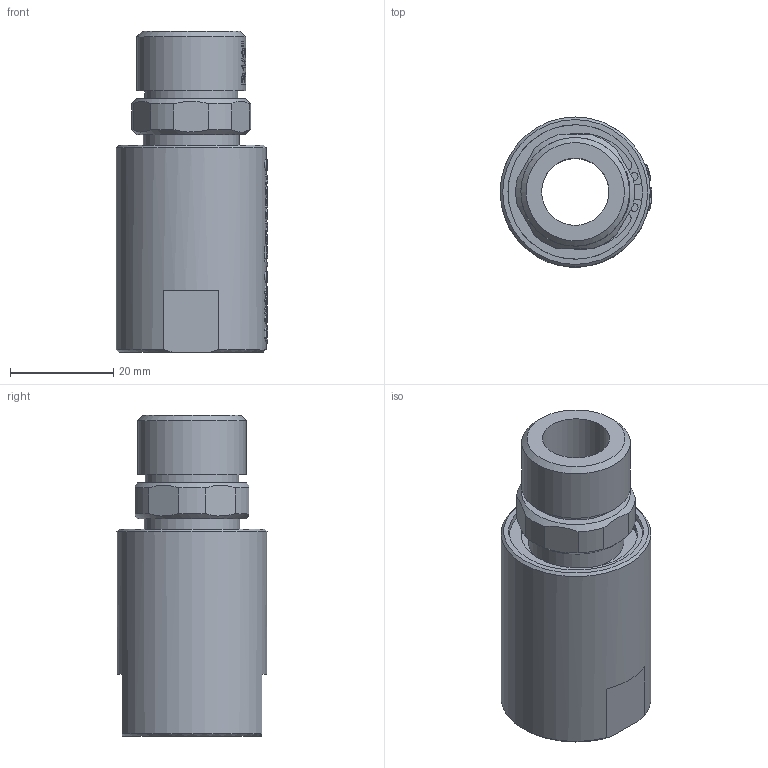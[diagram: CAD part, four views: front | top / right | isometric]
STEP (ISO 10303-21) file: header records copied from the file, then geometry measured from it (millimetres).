
FILE_DESCRIPTION(/* description */ (''),/* implementation_level */ '2;1');
FILE_NAME(/* name */ 'YQK0104(RH)-3D模型.stp',/* time_stamp */ '2025-07-08T16:26:20+08:00',/* author */ (''),/* organization */ (''),/* preprocessor_version */ 'ST-DEVELOPER v16.7',/* originating_system */ 'SIEMENS PLM Software NX 12.0',/* authorisation */ '');
FILE_SCHEMA (('AUTOMOTIVE_DESIGN { 1 0 10303 214 3 1 1 1 }'));
Products named in the file (1): Admi1E18C0B725u3
Bounding box: 29.3 x 29 x 62.1 mm (x, y, z)
Volume: 23467 mm3; surface area: 9688.1 mm2
Topology: 1 solids, 1 shells, 1072 faces, 3005 edges, 2003 vertices
Faces by surface type: extrusion 641, plane 325, cylinder 51, bspline 49, cone 6
Full cylindrical faces by diameter (mm): 1.5 x2, 13 x1, 18 x1, 18.5 x2, 21 x1, 26 x1, 29 x1
Entity records: 44563 total; most frequent: CARTESIAN_POINT 21951, ORIENTED_EDGE 5890, B_SPLINE_CURVE_WITH_KNOTS 3053, EDGE_CURVE 2945, DIRECTION 2167, VERTEX_POINT 1970, EDGE_LOOP 1163, ADVANCED_FACE 1069
